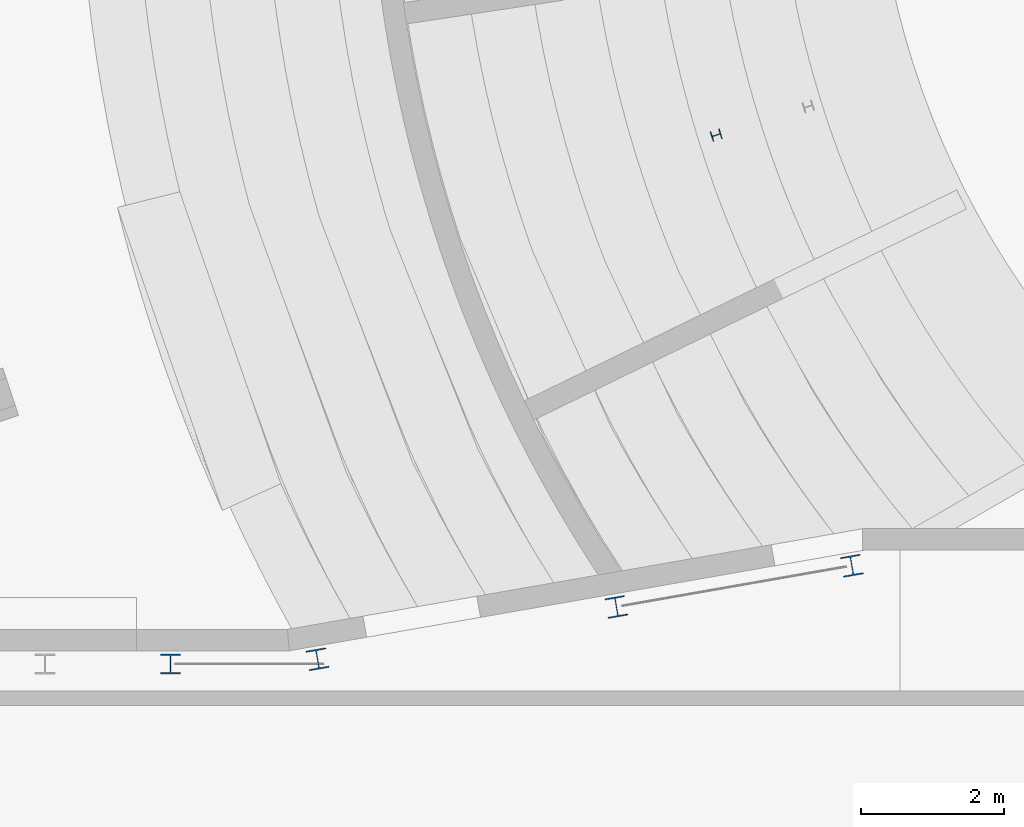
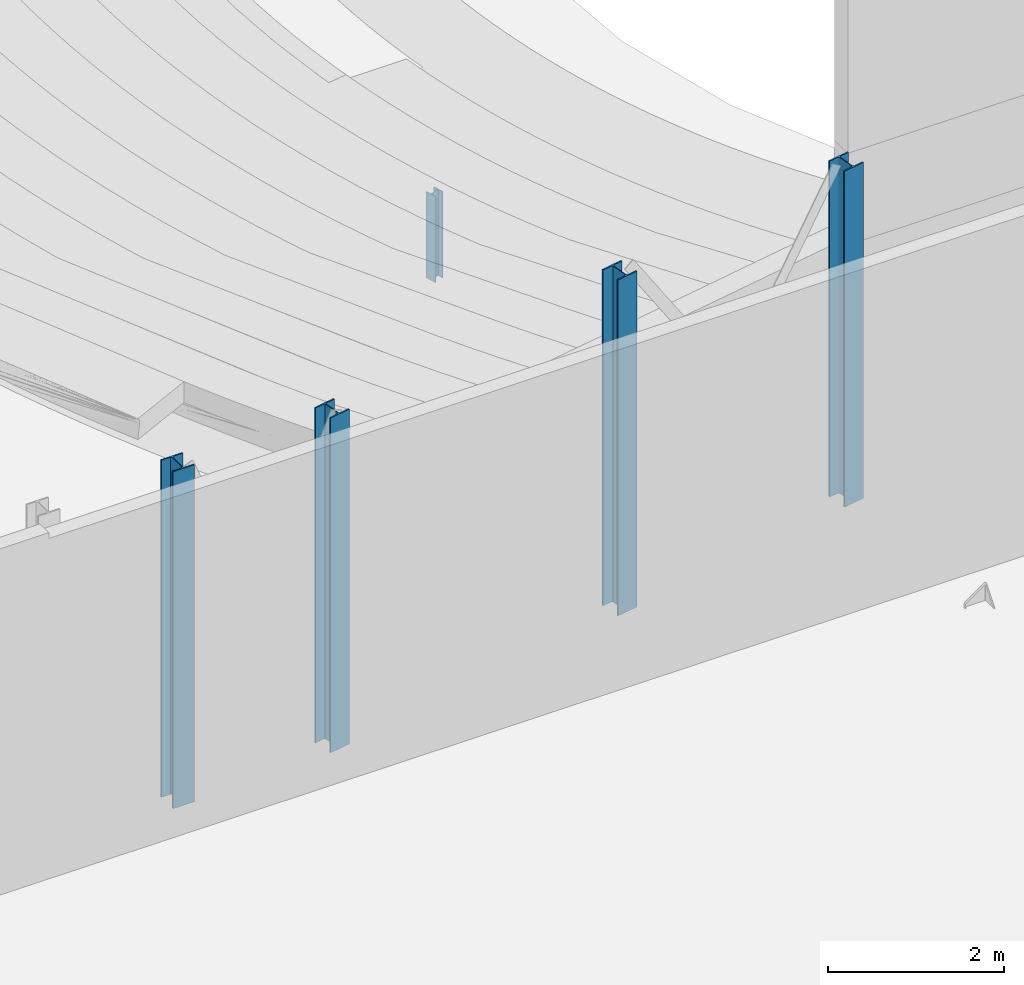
# One storey, part 4 of 34: 5 columns.
"""IFC2X3 building model written with IfcOpenShell, lengths in millimetres."""

from ifc_helpers import new_model, entity, si_unit, converted_unit, derived_unit, direction, frame, frame_2d, origin, origin_2d_with_axis, place, context, subcontext, project, spatial, i_section, extrude, source, transform, mapped, material, type_object, type_shapes, element, save


model = new_model("IFC2X3")

# Units and contexts
model_context = context("Model", 3, precision=0.01, world=origin(), true_north=direction((6.12303176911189e-17, 1.0)))
body_context = subcontext(model_context, "Body", "Model", "MODEL_VIEW")
ifc_project = project(units=[si_unit("LENGTHUNIT", "METRE", prefix="MILLI"), si_unit("AREAUNIT", "SQUARE_METRE", prefix="MILLI"), si_unit("VOLUMEUNIT", "CUBIC_METRE"), converted_unit("PLANEANGLEUNIT", "DEGREE", entity("IfcRatioMeasure", 0.0174532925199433), si_unit("PLANEANGLEUNIT", "RADIAN"), dimensions=[0, 0, 0, 0, 0, 0, 0]), si_unit("MASSUNIT", "GRAM", prefix="KILO"), derived_unit("MASSDENSITYUNIT", [(si_unit("MASSUNIT", "GRAM", prefix="KILO"), 1), (si_unit("LENGTHUNIT", "METRE"), -3)]), derived_unit("MOMENTOFINERTIAUNIT", [(si_unit("LENGTHUNIT", "METRE"), 4)]), si_unit("TIMEUNIT", "SECOND"), si_unit("FREQUENCYUNIT", "HERTZ"), si_unit("THERMODYNAMICTEMPERATUREUNIT", "DEGREE_CELSIUS"), derived_unit("THERMALTRANSMITTANCEUNIT", [(si_unit("MASSUNIT", "GRAM", prefix="KILO"), 1), (si_unit("THERMODYNAMICTEMPERATUREUNIT", "KELVIN"), -1), (si_unit("TIMEUNIT", "SECOND"), -3)]), derived_unit("VOLUMETRICFLOWRATEUNIT", [(si_unit("LENGTHUNIT", "METRE"), 3), (si_unit("TIMEUNIT", "SECOND"), -1)]), si_unit("ELECTRICCURRENTUNIT", "AMPERE"), si_unit("ELECTRICVOLTAGEUNIT", "VOLT"), si_unit("POWERUNIT", "WATT"), si_unit("FORCEUNIT", "NEWTON", prefix="KILO"), si_unit("ILLUMINANCEUNIT", "LUX"), si_unit("LUMINOUSFLUXUNIT", "LUMEN"), si_unit("LUMINOUSINTENSITYUNIT", "CANDELA"), derived_unit("USERDEFINED", [(si_unit("MASSUNIT", "GRAM", prefix="KILO"), -1), (si_unit("LENGTHUNIT", "METRE"), -2), (si_unit("TIMEUNIT", "SECOND"), 3), (si_unit("LUMINOUSFLUXUNIT", "LUMEN"), 1)]), derived_unit("LINEARVELOCITYUNIT", [(si_unit("LENGTHUNIT", "METRE"), 1), (si_unit("TIMEUNIT", "SECOND"), -1)]), si_unit("PRESSUREUNIT", "PASCAL"), derived_unit("USERDEFINED", [(si_unit("LENGTHUNIT", "METRE"), -2), (si_unit("MASSUNIT", "GRAM", prefix="KILO"), 1), (si_unit("TIMEUNIT", "SECOND"), -2)]), derived_unit("LINEARFORCEUNIT", [(si_unit("MASSUNIT", "GRAM", prefix="KILO"), 1), (si_unit("LENGTHUNIT", "METRE"), 1), (si_unit("TIMEUNIT", "SECOND"), -2), (si_unit("LENGTHUNIT", "METRE"), -1)]), derived_unit("PLANARFORCEUNIT", [(si_unit("MASSUNIT", "GRAM", prefix="KILO"), 1), (si_unit("LENGTHUNIT", "METRE"), 1), (si_unit("TIMEUNIT", "SECOND"), -2), (si_unit("LENGTHUNIT", "METRE"), -2)])], contexts=[model_context])

# Site, building, storey
site_placement = place(None, origin())
site = spatial("IfcSite", under=ifc_project, at=site_placement, Name="Theater aan de Parade", CompositionType="ELEMENT")
building_placement = place(site_placement, origin())
building = spatial("IfcBuilding", under=site, at=building_placement, Name="Theater aan de Parade", CompositionType="ELEMENT")
storey_placement = place(building_placement, frame((0.0, 0.0, 3.49116848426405e-09)))
storey = spatial("IfcBuildingStorey", under=building, at=storey_placement, Name="00 begane grond", CompositionType="ELEMENT", Elevation=3.49116848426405e-09)

# Columns
ifc_material_1 = material(Name="00_PBT_MAT_staal")
column_type_1 = type_object("IfcColumnType", Name="28_PBT_SC_staal_H-profiel:HE140A_bestaand", PredefinedType="COLUMN", material=ifc_material_1)
shared_shape_1 = source(origin(), body_context, "Body", "SweptSolid", [
    extrude(i_section(OverallWidth=140.0, OverallDepth=133.0, WebThickness=5.49999999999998, FlangeThickness=8.49999999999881, FilletRadius=12.0, at=frame_2d((-3.97903932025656e-13, -1.4210854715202e-14), x_axis=(0.0, 1.0))), frame((0.0, 0.0, -60.0), z_axis=(0.0, 0.0, 1.0), x_axis=(0.0, -1.0, 0.0)), (0.0, 0.0, 1.0), 1194.99999999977),
])
type_shapes(column_type_1, [shared_shape_1])
column_1_placement = place(storey_placement, frame((57590.8949987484, 27853.472355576, -3.49116848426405e-09), z_axis=(0.0, 0.0, 1.0), x_axis=(0.297378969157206, -0.954759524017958, 0.0)))
element("IfcColumn", 1, at=column_1_placement, inside=storey, type_object=column_type_1, material=ifc_material_1, Name="28_PBT_SC_staal_H-profiel:HE140A_bestaand", ObjectType="28_PBT_SC_staal_H-profiel:HE140A_bestaand", context=body_context, shape_type="MappedRepresentation", body=[
    mapped(shared_shape_1, transform((0.0, 0.0, 0.0), scale=1.0)),
])
ifc_material_2 = material(Name="00_PBT_MAT_staal_S355")
column_type_2 = type_object("IfcColumnType", Name="28_PBT_SC_staal_H-profiel:S355_HE280B", PredefinedType="COLUMN", material=ifc_material_2)
shared_shape_2 = source(origin(), body_context, "Body", "SweptSolid", [
    extrude(i_section(OverallWidth=279.999999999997, OverallDepth=279.999999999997, WebThickness=10.4999999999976, FlangeThickness=18.0000000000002, FilletRadius=24.0000000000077, at=frame_2d((0.0, 4.32009983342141e-12), x_axis=(0.0, 1.0))), frame((49946.4713059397, 20445.0, -105.0), z_axis=(0.0, 0.0, 1.0), x_axis=(0.0, -1.0, 0.0)), (0.0, 0.0, 1.0), 4664.99999999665),
])
type_shapes(column_type_2, [shared_shape_2])
column_2_placement = place(storey_placement, frame((0.0, 0.0, -3.49116848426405e-09)))
element("IfcColumn", 2, at=column_2_placement, inside=storey, type_object=column_type_2, material=ifc_material_2, Name="28_PBT_SC_staal_H-profiel:S355_HE280B", ObjectType="28_PBT_SC_staal_H-profiel:S355_HE280B", context=body_context, shape_type="MappedRepresentation", body=[
    mapped(shared_shape_2, transform((0.0, 0.0, 0.0), scale=1.0)),
])
column_type_3 = type_object("IfcColumnType", Name="28_PBT_SC_staal_H-profiel:S355_HE280B", PredefinedType="COLUMN", material=ifc_material_2)
shared_shape_3 = source(origin(), body_context, "Body", "SweptSolid", [
    extrude(i_section(OverallWidth=279.999999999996, OverallDepth=280.000000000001, WebThickness=10.5000000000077, FlangeThickness=18.0, FilletRadius=24.0000000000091, at=origin_2d_with_axis()), frame((56193.2454552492, 21244.1973974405, -105.0), z_axis=(0.0, 0.0, 1.0), x_axis=(-0.985030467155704, -0.172380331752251, 0.0)), (0.0, 0.0, 1.0), 4647.99999999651),
])
type_shapes(column_type_3, [shared_shape_3])
column_3_placement = place(storey_placement, frame((0.0, 0.0, -3.49116848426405e-09)))
element("IfcColumn", 3, at=column_3_placement, inside=storey, type_object=column_type_3, material=ifc_material_2, Name="28_PBT_SC_staal_H-profiel:S355_HE280B", ObjectType="28_PBT_SC_staal_H-profiel:S355_HE280B", context=body_context, shape_type="MappedRepresentation", body=[
    mapped(shared_shape_3, transform((0.0, 0.0, 0.0), scale=1.0)),
])
column_type_4 = type_object("IfcColumnType", Name="28_PBT_SC_staal_H-profiel:S355_HE280B", PredefinedType="COLUMN", material=ifc_material_2)
shared_shape_4 = source(origin(), body_context, "Body", "SweptSolid", [
    extrude(i_section(OverallWidth=279.999999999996, OverallDepth=280.000000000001, WebThickness=10.5000000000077, FlangeThickness=18.0, FilletRadius=24.0000000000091, at=frame_2d((-7.7875483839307e-12, 5.75539615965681e-12), x_axis=(1.0, 0.0))), frame((59491.1870358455, 21821.3371740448, -105.0), z_axis=(0.0, 0.0, 1.0), x_axis=(-0.985030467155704, -0.172380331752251, 0.0)), (0.0, 0.0, 1.0), 4647.99999999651),
])
type_shapes(column_type_4, [shared_shape_4])
column_4_placement = place(storey_placement, frame((0.0, 0.0, -3.49116848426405e-09)))
element("IfcColumn", 4, at=column_4_placement, inside=storey, type_object=column_type_4, material=ifc_material_2, Name="28_PBT_SC_staal_H-profiel:S355_HE280B", ObjectType="28_PBT_SC_staal_H-profiel:S355_HE280B", context=body_context, shape_type="MappedRepresentation", body=[
    mapped(shared_shape_4, transform((0.0, 0.0, 0.0), scale=1.0)),
])
column_type_5 = type_object("IfcColumnType", Name="28_PBT_SC_staal_H-profiel:S355_HE280B", PredefinedType="COLUMN", material=ifc_material_2)
shared_shape_5 = source(origin(), body_context, "Body", "SweptSolid", [
    extrude(i_section(OverallWidth=279.999999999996, OverallDepth=280.000000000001, WebThickness=10.5000000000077, FlangeThickness=18.0, FilletRadius=24.0000000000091, at=frame_2d((8.5265128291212e-12, -1.49213974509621e-12), x_axis=(1.0, 0.0))), frame((52005.6821149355, 20511.3738128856, -90.0), z_axis=(0.0, 0.0, 1.0), x_axis=(-0.985030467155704, -0.172380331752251, 0.0)), (0.0, 0.0, 1.0), 4632.99999999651),
])
type_shapes(column_type_5, [shared_shape_5])
column_5_placement = place(storey_placement, frame((0.0, 0.0, -3.49116848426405e-09)))
element("IfcColumn", 5, at=column_5_placement, inside=storey, type_object=column_type_5, material=ifc_material_2, Name="28_PBT_SC_staal_H-profiel:S355_HE280B", ObjectType="28_PBT_SC_staal_H-profiel:S355_HE280B", context=body_context, shape_type="MappedRepresentation", body=[
    mapped(shared_shape_5, transform((0.0, 0.0, 0.0), scale=1.0)),
])

save(model, "model.ifc")
